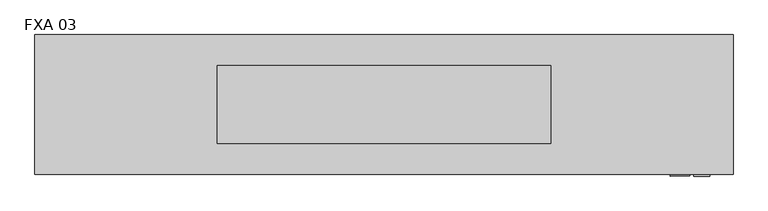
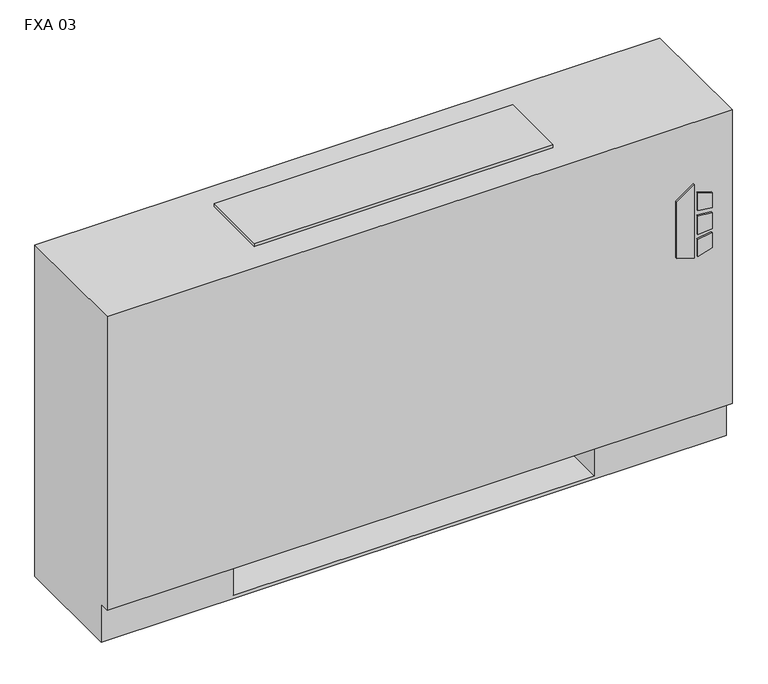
"""IFC4 building model written with IfcOpenShell, lengths in millimetres: proxy geometry, Vertical_Fan_Coil_Unit_-_FXA_-_IEC_-_2-Pipe_TS-FR_LH_2022 : FXA 03."""

import ifcopenshell
import ifcopenshell.guid

model = None  # the IFC model being written
_history = None  # IfcOwnerHistory: only IFC2X3 demands one
_inside = {}  # id of a spatial element -> (the spatial element, [elements in it])
_under = {}  # id of a project, library or spatial element -> (it, [spatial elements below it])
_declared = {}  # id of a project -> (the project, [libraries it declares])
_typed = {}  # id of a type object -> (the type object, [elements of that type])
_made_of = {}  # id of a material, layer set ... -> (it, [elements and type objects made of it])


def new_model(schema):
    """Start an empty IFC model of exactly this schema.

    Asked for "IFC4X3", IfcOpenShell would pick the latest addendum, in which some entities
    have other attributes; the version numbers below select the first issue.
    IFC2X3 requires an IfcOwnerHistory on every rooted entity: one is made here for all.
    """
    global model, _history
    if schema == "IFC4X3":
        model = ifcopenshell.file(schema_version=(4, 3, 0, 0))
    else:
        model = ifcopenshell.file(schema=schema)
    _inside.clear()
    _under.clear()
    _declared.clear()
    _typed.clear()
    _made_of.clear()
    _history = None
    if model.schema == "IFC2X3":
        org = make("IfcOrganization", Name="unknown")
        user = make(
            "IfcPersonAndOrganization",
            ThePerson=make("IfcPerson", FamilyName="unknown"),
            TheOrganization=org,
        )
        app = make(
            "IfcApplication",
            ApplicationDeveloper=org,
            Version="unknown",
            ApplicationFullName="unknown",
            ApplicationIdentifier="unknown",
        )
        _history = make(
            "IfcOwnerHistory",
            OwningUser=user,
            OwningApplication=app,
            ChangeAction="ADDED",
            CreationDate=0,
        )
    return model


def make(cls, **values):
    """One entity of the class cls with the attributes given. An attribute that is None is left unset."""
    return model.create_entity(
        cls, **{name: value for name, value in values.items() if value is not None}
    )


def rooted(cls, **values):
    """An entity with a GlobalId (a new one), such as an element, a storey or a relation."""
    return make(cls, GlobalId=ifcopenshell.guid.new(), OwnerHistory=_history, **values)


def si_unit(unit_type, name, prefix=None):
    """IfcSIUnit, for example si_unit("LENGTHUNIT", "METRE", prefix="MILLI")."""
    return make("IfcSIUnit", UnitType=unit_type, Prefix=prefix, Name=name)


def assignment(units):
    """IfcUnitAssignment: the units of a project."""
    return None if units is None else make("IfcUnitAssignment", Units=units)


def point(xyz):
    """IfcCartesianPoint."""
    return None if xyz is None else make("IfcCartesianPoint", Coordinates=xyz)


def direction(xyz):
    """IfcDirection."""
    return None if xyz is None else make("IfcDirection", DirectionRatios=xyz)


def frame(location, z_axis=None, x_axis=None):
    """IfcAxis2Placement3D, a coordinate frame: its origin and axes. An axis left out is left unset."""
    return make(
        "IfcAxis2Placement3D",
        Location=point(location),
        Axis=direction(z_axis),
        RefDirection=direction(x_axis),
    )


def frame_2d(location, x_axis=None):
    """IfcAxis2Placement2D, a coordinate frame in the plane: its origin and x axis."""
    return make(
        "IfcAxis2Placement2D", Location=point(location), RefDirection=direction(x_axis)
    )


def origin():
    """The frame at (0, 0, 0) with its axes left unset."""
    return frame((0.0, 0.0, 0.0))


def place(relative_to, where):
    """IfcLocalPlacement: puts the frame where relative to a parent placement (None: the world)."""
    return make(
        "IfcLocalPlacement", PlacementRelTo=relative_to, RelativePlacement=where
    )


def context(
    kind, dimensions, precision=None, world=None, true_north=None, identifier=None
):
    """IfcGeometricRepresentationContext, for example the 3D "Model" context."""
    return make(
        "IfcGeometricRepresentationContext",
        ContextIdentifier=identifier,
        ContextType=kind,
        CoordinateSpaceDimension=dimensions,
        Precision=precision,
        WorldCoordinateSystem=world,
        TrueNorth=true_north,
    )


def project(units=None, contexts=None):
    """IfcProject with its units and contexts."""
    return rooted(
        "IfcProject",
        Name="project",
        RepresentationContexts=contexts,
        UnitsInContext=assignment(units),
    )


def spatial(cls, under=None, at=None, **own):
    """A site, building, storey or space (cls), placed at a placement, below another one or the project."""
    s = rooted(cls, ObjectPlacement=at, **own)
    if under is not None:
        _under.setdefault(under.id(), (under, []))[1].append(s)
    return s


def polyline(points):
    """IfcPolyline through the points."""
    return make("IfcPolyline", Points=[point(p) for p in points])


def circle_curve(where, radius):
    """IfcCircle in the frame where."""
    return make("IfcCircle", Position=where, Radius=radius)


def trimmed(basis, trim1, trim2, sense, master):
    """IfcTrimmedCurve: the piece of a basis curve between two trims."""
    return make(
        "IfcTrimmedCurve",
        BasisCurve=basis,
        Trim1=trim1,
        Trim2=trim2,
        SenseAgreement=sense,
        MasterRepresentation=master,
    )


def segment(curve, same_sense, transition):
    """IfcCompositeCurveSegment."""
    return make(
        "IfcCompositeCurveSegment",
        Transition=transition,
        SameSense=same_sense,
        ParentCurve=curve,
    )


def composite_curve(segments, self_intersect=None):
    """IfcCompositeCurve: segments joined end to end."""
    return make("IfcCompositeCurve", Segments=segments, SelfIntersect=self_intersect)


def outline(outer, holes=None, kind="AREA"):
    """IfcArbitraryClosedProfileDef: a profile drawn as a closed curve; with holes, ...WithVoids."""
    if holes is None:
        return make("IfcArbitraryClosedProfileDef", ProfileType=kind, OuterCurve=outer)
    return make(
        "IfcArbitraryProfileDefWithVoids",
        ProfileType=kind,
        OuterCurve=outer,
        InnerCurves=holes,
    )


def extrude(swept, where, along, depth):
    """IfcExtrudedAreaSolid: the profile swept, set in the frame where, extruded along a direction by depth."""
    return make(
        "IfcExtrudedAreaSolid",
        SweptArea=swept,
        Position=where,
        ExtrudedDirection=direction(along),
        Depth=depth,
    )


def shape(context_of_items, identifier, shape_type, items):
    """IfcShapeRepresentation: the items that make up one representation, for example the "Body"."""
    return make(
        "IfcShapeRepresentation",
        ContextOfItems=context_of_items,
        RepresentationIdentifier=identifier,
        RepresentationType=shape_type,
        Items=items,
    )


def source(mapping_origin, context_of_items, identifier, shape_type, items):
    """IfcRepresentationMap: a shape defined once, which mapped items show again and again."""
    return make(
        "IfcRepresentationMap",
        MappingOrigin=mapping_origin,
        MappedRepresentation=shape(context_of_items, identifier, shape_type, items),
    )


def transform(
    local_origin,
    x_axis=None,
    y_axis=None,
    z_axis=None,
    scale=None,
    scale2=None,
    scale3=None,
    uniform=True,
):
    """IfcCartesianTransformationOperator3D, or its non-uniform kind. x_axis, y_axis, z_axis: its Axis1, 2, 3."""
    if uniform:
        return make(
            "IfcCartesianTransformationOperator3D",
            Axis1=direction(x_axis),
            Axis2=direction(y_axis),
            LocalOrigin=point(local_origin),
            Scale=scale,
            Axis3=direction(z_axis),
        )
    return make(
        "IfcCartesianTransformationOperator3DnonUniform",
        Axis1=direction(x_axis),
        Axis2=direction(y_axis),
        LocalOrigin=point(local_origin),
        Scale=scale,
        Axis3=direction(z_axis),
        Scale2=scale2,
        Scale3=scale3,
    )


def mapped(mapping_source, mapping_target):
    """IfcMappedItem: shows the shape of a source again, moved by a transform."""
    return make(
        "IfcMappedItem", MappingSource=mapping_source, MappingTarget=mapping_target
    )


def made_of(thing, what):
    """Note that an element or type object is made of a material, layer set ...; save() writes the relation."""
    if what is not None:
        _made_of.setdefault(what.id(), (what, []))[1].append(thing)
    return thing


def element(
    cls,
    number,
    at=None,
    inside=None,
    cuts=None,
    type_object=None,
    material=None,
    context=None,
    identifier="Body",
    shape_type=None,
    held_by="IfcProductDefinitionShape",
    body=None,
    shapes=None,
    **own,
):
    """One element of the class cls, such as IfcWall. Its Tag is "e" and its number.

    at: its placement. inside: the storey or other place that contains it. cuts: it is an
    opening in that element (IfcRelVoidsElement). A single representation is given by context,
    identifier, shape_type and body (its items); several are given by shapes. held_by: the class
    of the entity that holds the representations. save() writes the other relations.
    """
    e = rooted(cls, Tag="e%d" % number, ObjectPlacement=at, **own)
    if body is not None:
        shapes = [shape(context, identifier, shape_type, body)]
    if shapes is not None:
        e.Representation = make(held_by, Representations=shapes)
    if inside is not None:
        _inside.setdefault(inside.id(), (inside, []))[1].append(e)
    if cuts is not None:
        rooted(
            "IfcRelVoidsElement", RelatingBuildingElement=cuts, RelatedOpeningElement=e
        )
    if type_object is not None:
        _typed.setdefault(type_object.id(), (type_object, []))[1].append(e)
    return made_of(e, material)


def aggregate(whole, parts):
    """IfcRelAggregates: a whole, such as a stair, and the parts it consists of."""
    return rooted("IfcRelAggregates", RelatingObject=whole, RelatedObjects=parts)


def save(model, path):
    """Write the relations noted so far, then the file.

    IfcRelAggregates (storeys below a building ...), IfcRelContainedInSpatialStructure (elements
    in a storey), IfcRelDefinesByType, IfcRelAssociatesMaterial and IfcRelDeclares: one each for
    every whole, place, type object, material and project.
    """
    for whole, parts in _under.values():
        aggregate(whole, parts)
    for where, things in _inside.values():
        rooted(
            "IfcRelContainedInSpatialStructure",
            RelatedElements=things,
            RelatingStructure=where,
        )
    for kind, things in _typed.values():
        rooted("IfcRelDefinesByType", RelatedObjects=things, RelatingType=kind)
    for what, things in _made_of.values():
        rooted("IfcRelAssociatesMaterial", RelatedObjects=things, RelatingMaterial=what)
    for by, libraries in _declared.values():
        rooted("IfcRelDeclares", RelatingContext=by, RelatedDefinitions=libraries)
    model.write(path)


def plane_surface(at):
    """IfcPlane: the flat surface through the origin of the frame at, square to its z axis."""
    return make("IfcPlane", Position=at)


def revolved_surface(curve, axis_point, axis_direction):
    """IfcSurfaceOfRevolution: the curve turned about the line through axis_point along axis_direction."""
    return make(
        "IfcSurfaceOfRevolution",
        SweptCurve=make("IfcArbitraryOpenProfileDef", ProfileType="CURVE", Curve=curve),
        AxisPosition=make("IfcAxis1Placement", Location=point(axis_point), Axis=direction(axis_direction)),
    )


def advanced_brep(points, edges, surfaces, faces):
    """IfcAdvancedBrep: a solid bounded by faces that lie on surfaces and meet in shared edges.

    An edge is (start, end): straight between two places in points (the first is 0);
    or (start, end, curve); or (start, end, curve, False) where it runs against its curve.
    A face is (place in surfaces, loops), or (place, loops, False) where it looks against
    its surface's normal. A loop lists edges by number (the first is 1), with a minus sign
    where the edge is run from its end to its start. The first loop is the outer one.
    """
    corners = [point(p) for p in points]
    vertices = [make("IfcVertexPoint", VertexGeometry=c) for c in corners]
    made = []
    for start, end, *more in edges:
        made.append(
            make(
                "IfcEdgeCurve",
                EdgeStart=vertices[start],
                EdgeEnd=vertices[end],
                EdgeGeometry=more[0] if more else make("IfcPolyline", Points=[corners[start], corners[end]]),
                SameSense=more[1] if len(more) > 1 else True,
            )
        )
    hull = []
    for where, loops, *sense in faces:
        bounds = []
        for j, loop in enumerate(loops):
            ring = [make("IfcOrientedEdge", EdgeElement=made[abs(k) - 1], Orientation=k > 0) for k in loop]
            bounds.append(
                make(
                    "IfcFaceOuterBound" if j == 0 else "IfcFaceBound",
                    Bound=make("IfcEdgeLoop", EdgeList=ring),
                    Orientation=True,
                )
            )
        hull.append(make("IfcAdvancedFace", Bounds=bounds, FaceSurface=surfaces[where], SameSense=sense[0] if sense else True))
    return make("IfcAdvancedBrep", Outer=make("IfcClosedShell", CfsFaces=hull))


def fxa_03_8632cc7d(model_context):
    return source(origin(), model_context, "Body", "SolidModel", [
        extrude(outline(polyline([(391.6086829, 620.7868862), (381.6606126, 652.9602728), (523.831537, 652.9602728), (500.8095309, 620.7868862), (391.6086829, 620.7868862)])), frame((0.0, 12.7, 0.0), z_axis=(0.0, 1.0, 0.0), x_axis=(0.0, 0.0, 1.0)), (0.0, 0.0, 1.0), 3.175),
        extrude(outline(polyline([(470.6079683, 659.7186058), (467.4055757, 685.8), (496.6344168, 685.8), (504.6988318, 659.7186058), (470.6079683, 659.7186058)])), frame((0.0, 12.7, 0.0), z_axis=(0.0, 1.0, 0.0), x_axis=(0.0, 0.0, 1.0)), (0.0, 0.0, 1.0), 3.175),
        extrude(outline(polyline([(418.7444414, 685.8), (415.0789404, 659.7186058), (381.6606126, 659.7186058), (390.2948498, 685.8), (418.7444414, 685.8)])), frame((0.0, 12.7, 0.0), z_axis=(0.0, 1.0, 0.0), x_axis=(0.0, 0.0, 1.0)), (0.0, 0.0, 1.0), 3.175),
        extrude(outline(polyline([(458.0596028, 685.8), (460.3414292, 659.7186058), (424.4038806, 659.7186058), (427.1451456, 685.8), (458.0596028, 685.8)])), frame((0.0, 12.7, 0.0), z_axis=(0.0, 1.0, 0.0), x_axis=(0.0, 0.0, 1.0)), (0.0, 0.0, 1.0), 3.175),
        extrude(outline(polyline([(603.25, 223.266), (603.25, 81.534), (482.6, 81.534), (482.6, 223.266), (603.25, 223.266)])), frame((0.0, 0.0, 327.025), z_axis=(0.0, 0.0, 1.0), x_axis=(1.0, 0.0, 0.0)), (0.0, 0.0, 1.0), 260.35),
        extrude(outline(composite_curve([segment(trimmed(circle_curve(frame_2d((-241.3, 130.175)), 9.525), [point((-250.825, 130.175))], [point((-231.775, 130.175))], False, "CARTESIAN"), True, "CONTINUOUS"), segment(trimmed(circle_curve(frame_2d((-241.3, 130.175)), 9.525), [point((-231.775, 130.175))], [point((-250.825, 130.175))], False, "CARTESIAN"), True, "CONTINUOUS")], self_intersect=False)), frame((0.0, 0.0, 101.6), z_axis=(0.0, 0.0, 1.0), x_axis=(1.0, 0.0, 0.0)), (0.0, 0.0, 1.0), 25.4),
        extrude(outline(polyline([(-336.55, 63.5), (-336.55, 196.85), (-177.8, 196.85), (-177.8, 63.5), (-336.55, 63.5)])), frame((0.0, 0.0, 127.0), z_axis=(0.0, 0.0, 1.0), x_axis=(1.0, 0.0, 0.0)), (0.0, 0.0, 1.0), 50.8),
        extrude(outline(composite_curve([segment(trimmed(circle_curve(frame_2d((93.1926, 485.5972)), 7.9375), [point((93.1926, 493.5347))], [point((93.1926, 477.6597))], False, "CARTESIAN"), True, "CONTINUOUS"), segment(trimmed(circle_curve(frame_2d((93.1926, 485.5972)), 7.9375), [point((93.1926, 477.6597))], [point((93.1926, 493.5347))], False, "CARTESIAN"), True, "CONTINUOUS")], self_intersect=False)), frame((-228.6, 0.0, 0.0), z_axis=(1.0, 0.0, 0.0), x_axis=(0.0, 1.0, 0.0)), (0.0, 0.0, 1.0), 50.8),
        extrude(outline(composite_curve([segment(trimmed(circle_curve(frame_2d((141.3002, 458.9526)), 7.9375), [point((141.3002, 466.8901))], [point((141.3002, 451.0151))], False, "CARTESIAN"), True, "CONTINUOUS"), segment(trimmed(circle_curve(frame_2d((141.3002, 458.9526)), 7.9375), [point((141.3002, 451.0151))], [point((141.3002, 466.8901))], False, "CARTESIAN"), True, "CONTINUOUS")], self_intersect=False)), frame((-228.6, 0.0, 0.0), z_axis=(1.0, 0.0, 0.0), x_axis=(0.0, 1.0, 0.0)), (0.0, 0.0, 1.0), 50.8),
        advanced_brep(
        [(723.9, 244.475, 641.35), (-419.1, 244.475, 641.35), (-419.1, 15.875, 641.35), (723.9, 15.875, 641.35), (-419.1, 244.475, 0.0), (723.9, 244.475, 0.0), (723.9, 34.925, 0.0), (-419.1, 34.925, 0.0), (482.6, 244.475, 73.025), (711.2, 244.475, 73.025), (711.2, 244.475, 628.65), (482.6, 244.475, 628.65), (482.6, 244.475, 414.8650565), (511.175, 244.475, 414.8650565), (511.175, 244.475, 385.2349435), (482.6, 244.475, 385.2349435), (482.6, 244.475, 287.3375), (511.175, 244.475, 287.3375), (511.175, 244.475, 258.7625), (482.6, 244.475, 258.7625), (482.6, 244.475, 141.2875), (511.175, 244.475, 141.2875), (511.175, 244.475, 112.7125), (482.6, 244.475, 112.7125), (-177.8, 244.475, 628.65), (-406.4, 244.475, 628.65), (-406.4, 244.475, 73.025), (-177.8, 244.475, 73.025), (-177.8, 244.475, 112.7125), (-206.375, 244.475, 112.7125), (-206.375, 244.475, 141.2875), (-177.8, 244.475, 141.2875), (-177.8, 244.475, 258.7625), (-206.375, 244.475, 258.7625), (-206.375, 244.475, 287.3375), (-177.8, 244.475, 287.3375), (-177.8, 244.475, 385.2349435), (-206.375, 244.475, 385.2349435), (-206.375, 244.475, 414.8650565), (-177.8, 244.475, 414.8650565), (500.8626, 244.475, 127.0), (489.7374, 244.475, 127.0), (500.8626, 244.475, 400.05), (489.7374, 244.475, 400.05), (500.8626, 244.475, 273.05), (489.7374, 244.475, 273.05), (-184.9374, 244.475, 127.0), (-196.0626, 244.475, 127.0), (-184.9374, 244.475, 273.05), (-196.0626, 244.475, 273.05), (-184.9374, 244.475, 400.05), (-196.0626, 244.475, 400.05), (-419.1, 34.925, 73.025), (-419.1, 15.875, 73.025), (723.9, 15.875, 73.025), (723.9, 34.925, 73.025), (-177.8, 34.925, 73.025), (-177.8, 219.075, 73.025), (482.6, 219.075, 73.025), (482.6, 34.925, 73.025), (482.6, 34.925, 6.35), (-177.8, 34.925, 6.35), (482.6, 41.275, 628.65), (711.2, 41.275, 628.65), (711.2, 41.275, 73.025), (482.6, 41.275, 73.025), (-177.8, 41.275, 628.65), (-177.8, 41.275, 73.025), (-406.4, 41.275, 73.025), (-406.4, 41.275, 628.65), (482.6, 219.075, 73.025), (482.6, 238.125, 112.7125), (482.6, 238.125, 141.2875), (482.6, 238.125, 258.7625), (482.6, 238.125, 287.3375), (482.6, 238.125, 385.2349435), (482.6, 238.125, 414.8650565), (-177.8, 219.075, 73.025), (-177.8, 238.125, 414.8650565), (-177.8, 238.125, 385.2349435), (-177.8, 238.125, 287.3375), (-177.8, 238.125, 258.7625), (-177.8, 238.125, 141.2875), (-177.8, 238.125, 112.7125), (-177.8, 219.075, 6.35), (482.6, 219.075, 6.35), (511.175, 238.125, 112.7125), (511.175, 238.125, 141.2875), (489.7374, 238.125, 127.0), (500.8626, 238.125, 127.0), (511.175, 238.125, 258.7625), (511.175, 238.125, 287.3375), (489.7374, 238.125, 273.05), (500.8626, 238.125, 273.05), (511.175, 238.125, 385.2349435), (511.175, 238.125, 414.8650565), (489.7374, 238.125, 400.05), (500.8626, 238.125, 400.05), (-206.375, 238.125, 141.2875), (-206.375, 238.125, 112.7125), (-196.0626, 238.125, 127.0), (-184.9374, 238.125, 127.0), (-206.375, 238.125, 287.3375), (-206.375, 238.125, 258.7625), (-196.0626, 238.125, 273.05), (-184.9374, 238.125, 273.05), (-206.375, 238.125, 414.8650565), (-206.375, 238.125, 385.2349435), (-196.0626, 238.125, 400.05), (-184.9374, 238.125, 400.05)],
        [
            (0, 1),
            (1, 2),
            (2, 3),
            (3, 0),
            (4, 5),
            (5, 6),
            (6, 7),
            (7, 4),
            (0, 5),
            (4, 1),
            (8, 9),
            (9, 10),
            (10, 11),
            (11, 12),
            (12, 13),
            (13, 14),
            (14, 15),
            (15, 16),
            (16, 17),
            (17, 18),
            (18, 19),
            (19, 20),
            (20, 21),
            (21, 22),
            (22, 23),
            (23, 8),
            (24, 25),
            (25, 26),
            (26, 27),
            (27, 28),
            (28, 29),
            (29, 30),
            (30, 31),
            (31, 32),
            (32, 33),
            (33, 34),
            (34, 35),
            (35, 36),
            (36, 37),
            (37, 38),
            (38, 39),
            (39, 24),
            (40, 41, circle_curve(frame((495.3, 244.475, 127.0), z_axis=(0.0, -1.0, 0.0), x_axis=(-1.0, 0.0, 0.0)), 5.5626)),
            (41, 40, circle_curve(frame((495.3, 244.475, 127.0), z_axis=(0.0, -1.0, 0.0), x_axis=(-1.0, 0.0, 0.0)), 5.5626)),
            (42, 43, circle_curve(frame((495.3, 244.475, 400.05), z_axis=(0.0, -1.0, 0.0), x_axis=(-1.0, 0.0, 0.0)), 5.5626)),
            (43, 42, circle_curve(frame((495.3, 244.475, 400.05), z_axis=(0.0, -1.0, 0.0), x_axis=(-1.0, 0.0, 0.0)), 5.5626)),
            (44, 45, circle_curve(frame((495.3, 244.475, 273.05), z_axis=(0.0, -1.0, 0.0), x_axis=(-1.0, 0.0, 0.0)), 5.5626)),
            (45, 44, circle_curve(frame((495.3, 244.475, 273.05), z_axis=(0.0, -1.0, 0.0), x_axis=(-1.0, 0.0, 0.0)), 5.5626)),
            (46, 47, circle_curve(frame((-190.5, 244.475, 127.0), z_axis=(0.0, -1.0, 0.0), x_axis=(-1.0, 0.0, 0.0)), 5.5626)),
            (47, 46, circle_curve(frame((-190.5, 244.475, 127.0), z_axis=(0.0, -1.0, 0.0), x_axis=(-1.0, 0.0, 0.0)), 5.5626)),
            (48, 49, circle_curve(frame((-190.5, 244.475, 273.05), z_axis=(0.0, -1.0, 0.0), x_axis=(-1.0, 0.0, 0.0)), 5.5626)),
            (49, 48, circle_curve(frame((-190.5, 244.475, 273.05), z_axis=(0.0, -1.0, 0.0), x_axis=(-1.0, 0.0, 0.0)), 5.5626)),
            (50, 51, circle_curve(frame((-190.5, 244.475, 400.05), z_axis=(0.0, -1.0, 0.0), x_axis=(-1.0, 0.0, 0.0)), 5.5626)),
            (51, 50, circle_curve(frame((-190.5, 244.475, 400.05), z_axis=(0.0, -1.0, 0.0), x_axis=(-1.0, 0.0, 0.0)), 5.5626)),
            (7, 52),
            (52, 53),
            (53, 2),
            (53, 54),
            (54, 3),
            (54, 55),
            (55, 6),
            (52, 56),
            (56, 57),
            (57, 58),
            (58, 59),
            (59, 55),
            (59, 60),
            (60, 61),
            (61, 56),
            (62, 63),
            (63, 64),
            (64, 65),
            (65, 62),
            (66, 67),
            (67, 68),
            (68, 69),
            (69, 66),
            (65, 70),
            (70, 8),
            (23, 71),
            (71, 72),
            (72, 20),
            (19, 73),
            (73, 74),
            (74, 16),
            (15, 75),
            (75, 76),
            (76, 12),
            (11, 62),
            (64, 9),
            (63, 10),
            (69, 25),
            (24, 66),
            (68, 26),
            (67, 77),
            (77, 27),
            (39, 78),
            (78, 79),
            (79, 36),
            (35, 80),
            (80, 81),
            (81, 32),
            (31, 82),
            (82, 83),
            (83, 28),
            (57, 84),
            (84, 85),
            (85, 58),
            (85, 60),
            (84, 61),
            (71, 86),
            (86, 87),
            (87, 72),
            (88, 89, circle_curve(frame((495.3, 238.125, 127.0), z_axis=(0.0, 1.0, 0.0), x_axis=(-1.0, 0.0, 0.0)), 5.5626)),
            (89, 88, circle_curve(frame((495.3, 238.125, 127.0), z_axis=(0.0, 1.0, 0.0), x_axis=(-1.0, 0.0, 0.0)), 5.5626)),
            (73, 90),
            (90, 91),
            (91, 74),
            (92, 93, circle_curve(frame((495.3, 238.125, 273.05), z_axis=(0.0, 1.0, 0.0), x_axis=(-1.0, 0.0, 0.0)), 5.5626)),
            (93, 92, circle_curve(frame((495.3, 238.125, 273.05), z_axis=(0.0, 1.0, 0.0), x_axis=(-1.0, 0.0, 0.0)), 5.5626)),
            (75, 94),
            (94, 95),
            (95, 76),
            (96, 97, circle_curve(frame((495.3, 238.125, 400.05), z_axis=(0.0, 1.0, 0.0), x_axis=(-1.0, 0.0, 0.0)), 5.5626)),
            (97, 96, circle_curve(frame((495.3, 238.125, 400.05), z_axis=(0.0, 1.0, 0.0), x_axis=(-1.0, 0.0, 0.0)), 5.5626)),
            (98, 99),
            (99, 83),
            (82, 98),
            (100, 101, circle_curve(frame((-190.5, 238.125, 127.0), z_axis=(0.0, 1.0, 0.0), x_axis=(-1.0, 0.0, 0.0)), 5.5626)),
            (101, 100, circle_curve(frame((-190.5, 238.125, 127.0), z_axis=(0.0, 1.0, 0.0), x_axis=(-1.0, 0.0, 0.0)), 5.5626)),
            (102, 103),
            (103, 81),
            (80, 102),
            (104, 105, circle_curve(frame((-190.5, 238.125, 273.05), z_axis=(0.0, 1.0, 0.0), x_axis=(-1.0, 0.0, 0.0)), 5.5626)),
            (105, 104, circle_curve(frame((-190.5, 238.125, 273.05), z_axis=(0.0, 1.0, 0.0), x_axis=(-1.0, 0.0, 0.0)), 5.5626)),
            (106, 107),
            (107, 79),
            (78, 106),
            (108, 109, circle_curve(frame((-190.5, 238.125, 400.05), z_axis=(0.0, 1.0, 0.0), x_axis=(-1.0, 0.0, 0.0)), 5.5626)),
            (109, 108, circle_curve(frame((-190.5, 238.125, 400.05), z_axis=(0.0, 1.0, 0.0), x_axis=(-1.0, 0.0, 0.0)), 5.5626)),
            (87, 21),
            (86, 22),
            (91, 17),
            (90, 18),
            (95, 13),
            (94, 14),
            (30, 98),
            (99, 29),
            (34, 102),
            (103, 33),
            (38, 106),
            (107, 37),
            (88, 41),
            (40, 89),
            (96, 43),
            (42, 97),
            (92, 45),
            (44, 93),
            (100, 47),
            (46, 101),
            (104, 49),
            (48, 105),
            (108, 51),
            (50, 109),
        ],
        [
            plane_surface(frame((-419.1, 244.475, 641.35), z_axis=(0.0, 0.0, 1.0), x_axis=(-1.0, 0.0, 0.0))),
            plane_surface(frame((-419.1, 244.475, 0.0), z_axis=(0.0, 0.0, -1.0), x_axis=(1.0, 0.0, 0.0))),
            plane_surface(frame((723.9, 244.475, 641.35), z_axis=(0.0, 1.0, 0.0), x_axis=(0.0, 0.0, -1.0))),
            plane_surface(frame((-419.1, 244.475, 641.35), z_axis=(-1.0, 0.0, 0.0), x_axis=(0.0, 0.0, -1.0))),
            plane_surface(frame((-419.1, 15.875, 641.35), z_axis=(0.0, -1.0, 0.0), x_axis=(0.0, 0.0, -1.0))),
            plane_surface(frame((723.9, 15.875, 641.35), z_axis=(1.0, 0.0, 0.0), x_axis=(0.0, 0.0, -1.0))),
            plane_surface(frame((-419.1, 15.875, 73.025), z_axis=(0.0, 0.0, -1.0), x_axis=(1.0, 0.0, 0.0))),
            plane_surface(frame((-419.1, 34.925, 73.025), z_axis=(0.0, -1.0, 0.0), x_axis=(1.0, 0.0, 0.0))),
            plane_surface(frame((482.6, 41.275, 628.65), z_axis=(0.0, 1.0, 0.0), x_axis=(0.0, 0.0, -1.0))),
            plane_surface(frame((482.6, 41.275, 628.65), z_axis=(1.0, 0.0, 0.0), x_axis=(0.0, 1.0, 0.0))),
            plane_surface(frame((482.6, 41.275, 73.025), z_axis=(0.0, 0.0, 1.0), x_axis=(0.0, 1.0, 0.0))),
            plane_surface(frame((711.2, 41.275, 73.025), z_axis=(-1.0, 0.0, 0.0), x_axis=(0.0, 1.0, 0.0))),
            plane_surface(frame((711.2, 41.275, 628.65), z_axis=(0.0, 0.0, -1.0), x_axis=(0.0, 1.0, 0.0))),
            plane_surface(frame((-177.8, 41.275, 628.65), z_axis=(0.0, 0.0, -1.0), x_axis=(0.0, 1.0, 0.0))),
            plane_surface(frame((-406.4, 41.275, 628.65), z_axis=(1.0, 0.0, 0.0), x_axis=(0.0, 1.0, 0.0))),
            plane_surface(frame((-406.4, 41.275, 73.025), z_axis=(0.0, 0.0, 1.0), x_axis=(0.0, 1.0, 0.0))),
            plane_surface(frame((-177.8, 41.275, 73.025), z_axis=(-1.0, 0.0, 0.0), x_axis=(0.0, 1.0, 0.0))),
            plane_surface(frame((482.6, 219.075, 73.025), z_axis=(0.0, -1.0, 0.0), x_axis=(0.0, 0.0, -1.0))),
            plane_surface(frame((482.6, 219.075, 73.025), z_axis=(-1.0, 0.0, 0.0), x_axis=(0.0, -1.0, 0.0))),
            plane_surface(frame((482.6, 219.075, 6.35), z_axis=(0.0, 0.0, 1.0), x_axis=(0.0, -1.0, 0.0))),
            plane_surface(frame((-177.8, 219.075, 6.35), z_axis=(1.0, 0.0, 0.0), x_axis=(0.0, -1.0, 0.0))),
            plane_surface(frame((511.175, 238.125, 141.2875), z_axis=(0.0, -1.0, 0.0), x_axis=(-1.0, 0.0, 0.0))),
            plane_surface(frame((482.6, 244.475, 141.2875), z_axis=(0.0, 0.0, 1.0), x_axis=(0.0, -1.0, 0.0))),
            plane_surface(frame((511.175, 244.475, 141.2875), z_axis=(1.0, 0.0, 0.0), x_axis=(0.0, -1.0, 0.0))),
            plane_surface(frame((511.175, 244.475, 112.7125), z_axis=(0.0, 0.0, -1.0), x_axis=(0.0, -1.0, 0.0))),
            plane_surface(frame((482.6, 244.475, 287.3375), z_axis=(0.0, 0.0, 1.0), x_axis=(0.0, -1.0, 0.0))),
            plane_surface(frame((511.175, 244.475, 287.3375), z_axis=(1.0, 0.0, 0.0), x_axis=(0.0, -1.0, 0.0))),
            plane_surface(frame((511.175, 244.475, 258.7625), z_axis=(0.0, 0.0, -1.0), x_axis=(0.0, -1.0, 0.0))),
            plane_surface(frame((482.6, 244.475, 414.8650565), z_axis=(0.0, 0.0, 1.0), x_axis=(0.0, -1.0, 0.0))),
            plane_surface(frame((511.175, 244.475, 414.8650565), z_axis=(1.0, 0.0, 0.0), x_axis=(0.0, -1.0, 0.0))),
            plane_surface(frame((511.175, 244.475, 385.2349435), z_axis=(0.0, 0.0, -1.0), x_axis=(0.0, -1.0, 0.0))),
            plane_surface(frame((-206.375, 244.475, 141.2875), z_axis=(0.0, 0.0, 1.0), x_axis=(0.0, -1.0, 0.0))),
            plane_surface(frame((-177.8, 244.475, 112.7125), z_axis=(0.0, 0.0, -1.0), x_axis=(0.0, -1.0, 0.0))),
            plane_surface(frame((-206.375, 244.475, 112.7125), z_axis=(-1.0, 0.0, 0.0), x_axis=(0.0, -1.0, 0.0))),
            plane_surface(frame((-206.375, 244.475, 287.3375), z_axis=(0.0, 0.0, 1.0), x_axis=(0.0, -1.0, 0.0))),
            plane_surface(frame((-177.8, 244.475, 258.7625), z_axis=(0.0, 0.0, -1.0), x_axis=(0.0, -1.0, 0.0))),
            plane_surface(frame((-206.375, 244.475, 258.7625), z_axis=(-1.0, 0.0, 0.0), x_axis=(0.0, -1.0, 0.0))),
            plane_surface(frame((-206.375, 244.475, 414.8650565), z_axis=(0.0, 0.0, 1.0), x_axis=(0.0, -1.0, 0.0))),
            plane_surface(frame((-177.8, 244.475, 385.2349435), z_axis=(0.0, 0.0, -1.0), x_axis=(0.0, -1.0, 0.0))),
            plane_surface(frame((-206.375, 244.475, 385.2349435), z_axis=(-1.0, 0.0, 0.0), x_axis=(0.0, -1.0, 0.0))),
            revolved_surface(polyline([(489.73740000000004, 238.125, 127.0), (489.73740000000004, 244.475, 127.0)]), (495.3, 244.475, 127.0), (0.0, -1.0, 0.0)),
            revolved_surface(polyline([(489.73740000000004, 238.125, 400.05), (489.73740000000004, 244.475, 400.05)]), (495.3, 244.475, 400.05), (0.0, -1.0, 0.0)),
            revolved_surface(polyline([(489.73740000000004, 238.125, 273.05), (489.73740000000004, 244.475, 273.05)]), (495.3, 244.475, 273.05), (0.0, -1.0, 0.0)),
            revolved_surface(polyline([(-196.0626, 238.125, 127.0), (-196.0626, 244.475, 127.0)]), (-190.5, 244.475, 127.0), (0.0, -1.0, 0.0)),
            revolved_surface(polyline([(-196.0626, 238.125, 273.05), (-196.0626, 244.475, 273.05)]), (-190.5, 244.475, 273.05), (0.0, -1.0, 0.0)),
            revolved_surface(polyline([(-196.0626, 238.125, 400.05), (-196.0626, 244.475, 400.05)]), (-190.5, 244.475, 400.05), (0.0, -1.0, 0.0)),
        ],
        [
            (0, [[1, 2, 3, 4]]),
            (1, [[5, 6, 7, 8]]),
            (2, [[-1, 9, -5, 10], [11, 12, 13, 14, 15, 16, 17, 18, 19, 20, 21, 22, 23, 24, 25, 26], [27, 28, 29, 30, 31, 32, 33, 34, 35, 36, 37, 38, 39, 40, 41, 42], [43, 44], [45, 46], [47, 48], [49, 50], [51, 52], [53, 54]]),
            (3, [[-2, -10, -8, 55, 56, 57]]),
            (4, [[-3, -57, 58, 59]]),
            (5, [[-4, -59, 60, 61, -6, -9]]),
            (6, [[-56, 62, 63, 64, 65, 66, -60, -58]]),
            (7, [[-7, -61, -66, 67, 68, 69, -62, -55]]),
            (8, [[70, 71, 72, 73]]),
            (8, [[74, 75, 76, 77]]),
            (9, [[-73, 78, 79, -26, 80, 81, 82, -22, 83, 84, 85, -18, 86, 87, 88, -14, 89]]),
            (10, [[-72, 90, -11, -79, -78]]),
            (11, [[-71, 91, -12, -90]]),
            (12, [[-70, -89, -13, -91]]),
            (13, [[-77, 92, -27, 93]]),
            (14, [[-76, 94, -28, -92]]),
            (15, [[-75, 95, 96, -29, -94]]),
            (16, [[-74, -93, -42, 97, 98, 99, -38, 100, 101, 102, -34, 103, 104, 105, -30, -96, -95]]),
            (17, [[-64, 106, 107, 108]]),
            (18, [[-108, 109, -67, -65]]),
            (19, [[-107, 110, -68, -109]]),
            (20, [[-106, -63, -69, -110]]),
            (21, [[111, 112, 113, -81], [114, 115]]),
            (21, [[116, 117, 118, -84], [119, 120]]),
            (21, [[121, 122, 123, -87], [124, 125]]),
            (21, [[126, 127, -104, 128], [129, 130]]),
            (21, [[131, 132, -101, 133], [134, 135]]),
            (21, [[136, 137, -98, 138], [139, 140]]),
            (22, [[-113, 141, -23, -82]]),
            (23, [[-112, 142, -24, -141]]),
            (24, [[-111, -80, -25, -142]]),
            (25, [[-118, 143, -19, -85]]),
            (26, [[-117, 144, -20, -143]]),
            (27, [[-116, -83, -21, -144]]),
            (28, [[-123, 145, -15, -88]]),
            (29, [[-122, 146, -16, -145]]),
            (30, [[-121, -86, -17, -146]]),
            (31, [[-128, -103, -33, 147]]),
            (32, [[-127, 148, -31, -105]]),
            (33, [[-126, -147, -32, -148]]),
            (34, [[-133, -100, -37, 149]]),
            (35, [[-132, 150, -35, -102]]),
            (36, [[-131, -149, -36, -150]]),
            (37, [[-138, -97, -41, 151]]),
            (38, [[-137, 152, -39, -99]]),
            (39, [[-136, -151, -40, -152]]),
            (40, [[153, -43, 154, -114]]),
            (40, [[-153, -115, -154, -44]]),
            (41, [[155, -45, 156, -124]]),
            (41, [[-155, -125, -156, -46]]),
            (42, [[157, -47, 158, -119]]),
            (42, [[-157, -120, -158, -48]]),
            (43, [[159, -49, 160, -129]]),
            (43, [[-159, -130, -160, -50]]),
            (44, [[161, -51, 162, -134]]),
            (44, [[-161, -135, -162, -52]]),
            (45, [[163, -53, 164, -139]]),
            (45, [[-163, -140, -164, -54]]),
        ],
    ),
        extrude(outline(polyline([(425.45, 193.675), (425.45, 66.675), (-120.65, 66.675), (-120.65, 193.675), (425.45, 193.675)])), frame((0.0, 0.0, 641.35), z_axis=(0.0, 0.0, 1.0), x_axis=(1.0, 0.0, 0.0)), (0.0, 0.0, 1.0), 6.35),
    ])


if __name__ == "__main__":
    model = new_model("IFC4")
    model_context = context("Model", 3, world=origin())
    ifc_project = project(units=[si_unit("LENGTHUNIT", "METRE", prefix="MILLI")], contexts=[model_context])
    site = spatial("IfcSite", under=ifc_project)
    building = spatial("IfcBuilding", under=site)
    placement = place(None, origin())
    fxa_03_shape = fxa_03_8632cc7d(model_context)
    element("IfcBuildingElementProxy", 1, Name="Vertical_Fan_Coil_Unit_-_FXA_-_IEC_-_2-Pipe_TS-FR_LH_2022 : FXA 03", ObjectType="Vertical_Fan_Coil_Unit_-_FXA_-_IEC_-_2-Pipe_TS-FR_LH_2022 : FXA 03", at=placement, inside=building, context=model_context, shape_type="MappedRepresentation", body=[
        mapped(fxa_03_shape, transform((0.0, 0.0, 0.0), x_axis=(1.0, 0.0, 0.0), y_axis=(0.0, 1.0, 0.0), z_axis=(0.0, 0.0, 1.0))),
    ])
    save(model, "model.ifc")
